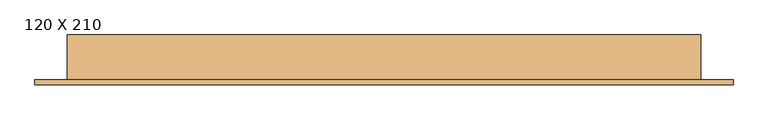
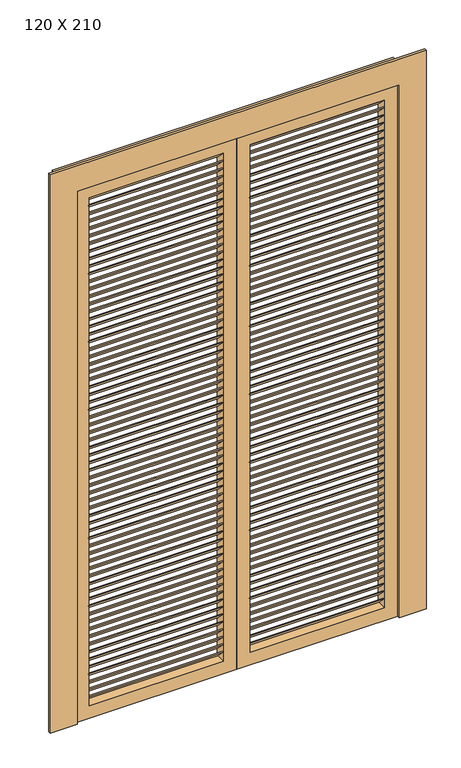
"""IFC4 building model written with IfcOpenShell, lengths in millimetres: door geometry, PORTA VENEZIANA DE ABRIR - 2 FOLHAS : 120 X 210."""

import ifcopenshell
import ifcopenshell.guid

model = None  # the IFC model being written
_history = None  # IfcOwnerHistory: only IFC2X3 demands one
_inside = {}  # id of a spatial element -> (the spatial element, [elements in it])
_under = {}  # id of a project, library or spatial element -> (it, [spatial elements below it])
_declared = {}  # id of a project -> (the project, [libraries it declares])
_typed = {}  # id of a type object -> (the type object, [elements of that type])
_made_of = {}  # id of a material, layer set ... -> (it, [elements and type objects made of it])


def new_model(schema):
    """Start an empty IFC model of exactly this schema.

    Asked for "IFC4X3", IfcOpenShell would pick the latest addendum, in which some entities
    have other attributes; the version numbers below select the first issue.
    IFC2X3 requires an IfcOwnerHistory on every rooted entity: one is made here for all.
    """
    global model, _history
    if schema == "IFC4X3":
        model = ifcopenshell.file(schema_version=(4, 3, 0, 0))
    else:
        model = ifcopenshell.file(schema=schema)
    _inside.clear()
    _under.clear()
    _declared.clear()
    _typed.clear()
    _made_of.clear()
    _history = None
    if model.schema == "IFC2X3":
        org = make("IfcOrganization", Name="unknown")
        user = make(
            "IfcPersonAndOrganization",
            ThePerson=make("IfcPerson", FamilyName="unknown"),
            TheOrganization=org,
        )
        app = make(
            "IfcApplication",
            ApplicationDeveloper=org,
            Version="unknown",
            ApplicationFullName="unknown",
            ApplicationIdentifier="unknown",
        )
        _history = make(
            "IfcOwnerHistory",
            OwningUser=user,
            OwningApplication=app,
            ChangeAction="ADDED",
            CreationDate=0,
        )
    return model


def make(cls, **values):
    """One entity of the class cls with the attributes given. An attribute that is None is left unset."""
    return model.create_entity(
        cls, **{name: value for name, value in values.items() if value is not None}
    )


def rooted(cls, **values):
    """An entity with a GlobalId (a new one), such as an element, a storey or a relation."""
    return make(cls, GlobalId=ifcopenshell.guid.new(), OwnerHistory=_history, **values)


def si_unit(unit_type, name, prefix=None):
    """IfcSIUnit, for example si_unit("LENGTHUNIT", "METRE", prefix="MILLI")."""
    return make("IfcSIUnit", UnitType=unit_type, Prefix=prefix, Name=name)


def assignment(units):
    """IfcUnitAssignment: the units of a project."""
    return None if units is None else make("IfcUnitAssignment", Units=units)


def point(xyz):
    """IfcCartesianPoint."""
    return None if xyz is None else make("IfcCartesianPoint", Coordinates=xyz)


def direction(xyz):
    """IfcDirection."""
    return None if xyz is None else make("IfcDirection", DirectionRatios=xyz)


def frame(location, z_axis=None, x_axis=None):
    """IfcAxis2Placement3D, a coordinate frame: its origin and axes. An axis left out is left unset."""
    return make(
        "IfcAxis2Placement3D",
        Location=point(location),
        Axis=direction(z_axis),
        RefDirection=direction(x_axis),
    )


def origin():
    """The frame at (0, 0, 0) with its axes left unset."""
    return frame((0.0, 0.0, 0.0))


def place(relative_to, where):
    """IfcLocalPlacement: puts the frame where relative to a parent placement (None: the world)."""
    return make(
        "IfcLocalPlacement", PlacementRelTo=relative_to, RelativePlacement=where
    )


def context(
    kind, dimensions, precision=None, world=None, true_north=None, identifier=None
):
    """IfcGeometricRepresentationContext, for example the 3D "Model" context."""
    return make(
        "IfcGeometricRepresentationContext",
        ContextIdentifier=identifier,
        ContextType=kind,
        CoordinateSpaceDimension=dimensions,
        Precision=precision,
        WorldCoordinateSystem=world,
        TrueNorth=true_north,
    )


def project(units=None, contexts=None):
    """IfcProject with its units and contexts."""
    return rooted(
        "IfcProject",
        Name="project",
        RepresentationContexts=contexts,
        UnitsInContext=assignment(units),
    )


def spatial(cls, under=None, at=None, **own):
    """A site, building, storey or space (cls), placed at a placement, below another one or the project."""
    s = rooted(cls, ObjectPlacement=at, **own)
    if under is not None:
        _under.setdefault(under.id(), (under, []))[1].append(s)
    return s


def polyline(points):
    """IfcPolyline through the points."""
    return make("IfcPolyline", Points=[point(p) for p in points])


def outline(outer, holes=None, kind="AREA"):
    """IfcArbitraryClosedProfileDef: a profile drawn as a closed curve; with holes, ...WithVoids."""
    if holes is None:
        return make("IfcArbitraryClosedProfileDef", ProfileType=kind, OuterCurve=outer)
    return make(
        "IfcArbitraryProfileDefWithVoids",
        ProfileType=kind,
        OuterCurve=outer,
        InnerCurves=holes,
    )


def extrude(swept, where, along, depth):
    """IfcExtrudedAreaSolid: the profile swept, set in the frame where, extruded along a direction by depth."""
    return make(
        "IfcExtrudedAreaSolid",
        SweptArea=swept,
        Position=where,
        ExtrudedDirection=direction(along),
        Depth=depth,
    )


def shape(context_of_items, identifier, shape_type, items):
    """IfcShapeRepresentation: the items that make up one representation, for example the "Body"."""
    return make(
        "IfcShapeRepresentation",
        ContextOfItems=context_of_items,
        RepresentationIdentifier=identifier,
        RepresentationType=shape_type,
        Items=items,
    )


def source(mapping_origin, context_of_items, identifier, shape_type, items):
    """IfcRepresentationMap: a shape defined once, which mapped items show again and again."""
    return make(
        "IfcRepresentationMap",
        MappingOrigin=mapping_origin,
        MappedRepresentation=shape(context_of_items, identifier, shape_type, items),
    )


def transform(
    local_origin,
    x_axis=None,
    y_axis=None,
    z_axis=None,
    scale=None,
    scale2=None,
    scale3=None,
    uniform=True,
):
    """IfcCartesianTransformationOperator3D, or its non-uniform kind. x_axis, y_axis, z_axis: its Axis1, 2, 3."""
    if uniform:
        return make(
            "IfcCartesianTransformationOperator3D",
            Axis1=direction(x_axis),
            Axis2=direction(y_axis),
            LocalOrigin=point(local_origin),
            Scale=scale,
            Axis3=direction(z_axis),
        )
    return make(
        "IfcCartesianTransformationOperator3DnonUniform",
        Axis1=direction(x_axis),
        Axis2=direction(y_axis),
        LocalOrigin=point(local_origin),
        Scale=scale,
        Axis3=direction(z_axis),
        Scale2=scale2,
        Scale3=scale3,
    )


def mapped(mapping_source, mapping_target):
    """IfcMappedItem: shows the shape of a source again, moved by a transform."""
    return make(
        "IfcMappedItem", MappingSource=mapping_source, MappingTarget=mapping_target
    )


def made_of(thing, what):
    """Note that an element or type object is made of a material, layer set ...; save() writes the relation."""
    if what is not None:
        _made_of.setdefault(what.id(), (what, []))[1].append(thing)
    return thing


def element(
    cls,
    number,
    at=None,
    inside=None,
    cuts=None,
    type_object=None,
    material=None,
    context=None,
    identifier="Body",
    shape_type=None,
    held_by="IfcProductDefinitionShape",
    body=None,
    shapes=None,
    **own,
):
    """One element of the class cls, such as IfcWall. Its Tag is "e" and its number.

    at: its placement. inside: the storey or other place that contains it. cuts: it is an
    opening in that element (IfcRelVoidsElement). A single representation is given by context,
    identifier, shape_type and body (its items); several are given by shapes. held_by: the class
    of the entity that holds the representations. save() writes the other relations.
    """
    e = rooted(cls, Tag="e%d" % number, ObjectPlacement=at, **own)
    if body is not None:
        shapes = [shape(context, identifier, shape_type, body)]
    if shapes is not None:
        e.Representation = make(held_by, Representations=shapes)
    if inside is not None:
        _inside.setdefault(inside.id(), (inside, []))[1].append(e)
    if cuts is not None:
        rooted(
            "IfcRelVoidsElement", RelatingBuildingElement=cuts, RelatedOpeningElement=e
        )
    if type_object is not None:
        _typed.setdefault(type_object.id(), (type_object, []))[1].append(e)
    return made_of(e, material)


def aggregate(whole, parts):
    """IfcRelAggregates: a whole, such as a stair, and the parts it consists of."""
    return rooted("IfcRelAggregates", RelatingObject=whole, RelatedObjects=parts)


def save(model, path):
    """Write the relations noted so far, then the file.

    IfcRelAggregates (storeys below a building ...), IfcRelContainedInSpatialStructure (elements
    in a storey), IfcRelDefinesByType, IfcRelAssociatesMaterial and IfcRelDeclares: one each for
    every whole, place, type object, material and project.
    """
    for whole, parts in _under.values():
        aggregate(whole, parts)
    for where, things in _inside.values():
        rooted(
            "IfcRelContainedInSpatialStructure",
            RelatedElements=things,
            RelatingStructure=where,
        )
    for kind, things in _typed.values():
        rooted("IfcRelDefinesByType", RelatedObjects=things, RelatingType=kind)
    for what, things in _made_of.values():
        rooted("IfcRelAssociatesMaterial", RelatedObjects=things, RelatingMaterial=what)
    for by, libraries in _declared.values():
        rooted("IfcRelDeclares", RelatingContext=by, RelatedDefinitions=libraries)
    model.write(path)


def door_120_x_210_11fb88a3(model_context):
    return source(origin(), model_context, "Body", "SweptSolid", [
        extrude(outline(polyline([(-40.0, 1985.2272727), (-75.0, 2020.2272727), (-70.0, 2020.2272727), (-35.0, 1985.2272727), (-40.0, 1985.2272727)])), frame((130.0, 0.0, 0.0), z_axis=(1.0, 0.0, 0.0), x_axis=(0.0, 1.0, 0.0)), (0.0, 0.0, 1.0), 500.0),
        extrude(outline(polyline([(-40.0, 1955.4545455), (-75.0, 1990.4545455), (-70.0, 1990.4545455), (-35.0, 1955.4545455), (-40.0, 1955.4545455)])), frame((130.0, 0.0, 0.0), z_axis=(1.0, 0.0, 0.0), x_axis=(0.0, 1.0, 0.0)), (0.0, 0.0, 1.0), 500.0),
        extrude(outline(polyline([(-40.0, 1925.6818182), (-75.0, 1960.6818182), (-70.0, 1960.6818182), (-35.0, 1925.6818182), (-40.0, 1925.6818182)])), frame((130.0, 0.0, 0.0), z_axis=(1.0, 0.0, 0.0), x_axis=(0.0, 1.0, 0.0)), (0.0, 0.0, 1.0), 500.0),
        extrude(outline(polyline([(-40.0, 1895.9090909), (-75.0, 1930.9090909), (-70.0, 1930.9090909), (-35.0, 1895.9090909), (-40.0, 1895.9090909)])), frame((130.0, 0.0, 0.0), z_axis=(1.0, 0.0, 0.0), x_axis=(0.0, 1.0, 0.0)), (0.0, 0.0, 1.0), 500.0),
        extrude(outline(polyline([(-40.0, 1866.1363636), (-75.0, 1901.1363636), (-70.0, 1901.1363636), (-35.0, 1866.1363636), (-40.0, 1866.1363636)])), frame((130.0, 0.0, 0.0), z_axis=(1.0, 0.0, 0.0), x_axis=(0.0, 1.0, 0.0)), (0.0, 0.0, 1.0), 500.0),
        extrude(outline(polyline([(-40.0, 1836.3636364), (-75.0, 1871.3636364), (-70.0, 1871.3636364), (-35.0, 1836.3636364), (-40.0, 1836.3636364)])), frame((130.0, 0.0, 0.0), z_axis=(1.0, 0.0, 0.0), x_axis=(0.0, 1.0, 0.0)), (0.0, 0.0, 1.0), 500.0),
        extrude(outline(polyline([(-40.0, 1806.5909091), (-75.0, 1841.5909091), (-70.0, 1841.5909091), (-35.0, 1806.5909091), (-40.0, 1806.5909091)])), frame((130.0, 0.0, 0.0), z_axis=(1.0, 0.0, 0.0), x_axis=(0.0, 1.0, 0.0)), (0.0, 0.0, 1.0), 500.0),
        extrude(outline(polyline([(-40.0, 1776.8181818), (-75.0, 1811.8181818), (-70.0, 1811.8181818), (-35.0, 1776.8181818), (-40.0, 1776.8181818)])), frame((130.0, 0.0, 0.0), z_axis=(1.0, 0.0, 0.0), x_axis=(0.0, 1.0, 0.0)), (0.0, 0.0, 1.0), 500.0),
        extrude(outline(polyline([(-40.0, 1747.0454545), (-75.0, 1782.0454545), (-70.0, 1782.0454545), (-35.0, 1747.0454545), (-40.0, 1747.0454545)])), frame((130.0, 0.0, 0.0), z_axis=(1.0, 0.0, 0.0), x_axis=(0.0, 1.0, 0.0)), (0.0, 0.0, 1.0), 500.0),
        extrude(outline(polyline([(-40.0, 1717.2727273), (-75.0, 1752.2727273), (-70.0, 1752.2727273), (-35.0, 1717.2727273), (-40.0, 1717.2727273)])), frame((130.0, 0.0, 0.0), z_axis=(1.0, 0.0, 0.0), x_axis=(0.0, 1.0, 0.0)), (0.0, 0.0, 1.0), 500.0),
        extrude(outline(polyline([(-40.0, 1687.5), (-75.0, 1722.5), (-70.0, 1722.5), (-35.0, 1687.5), (-40.0, 1687.5)])), frame((130.0, 0.0, 0.0), z_axis=(1.0, 0.0, 0.0), x_axis=(0.0, 1.0, 0.0)), (0.0, 0.0, 1.0), 500.0),
        extrude(outline(polyline([(-40.0, 1657.7272727), (-75.0, 1692.7272727), (-70.0, 1692.7272727), (-35.0, 1657.7272727), (-40.0, 1657.7272727)])), frame((130.0, 0.0, 0.0), z_axis=(1.0, 0.0, 0.0), x_axis=(0.0, 1.0, 0.0)), (0.0, 0.0, 1.0), 500.0),
        extrude(outline(polyline([(-40.0, 1627.9545455), (-75.0, 1662.9545455), (-70.0, 1662.9545455), (-35.0, 1627.9545455), (-40.0, 1627.9545455)])), frame((130.0, 0.0, 0.0), z_axis=(1.0, 0.0, 0.0), x_axis=(0.0, 1.0, 0.0)), (0.0, 0.0, 1.0), 500.0),
        extrude(outline(polyline([(-40.0, 1598.1818182), (-75.0, 1633.1818182), (-70.0, 1633.1818182), (-35.0, 1598.1818182), (-40.0, 1598.1818182)])), frame((130.0, 0.0, 0.0), z_axis=(1.0, 0.0, 0.0), x_axis=(0.0, 1.0, 0.0)), (0.0, 0.0, 1.0), 500.0),
        extrude(outline(polyline([(-40.0, 1568.4090909), (-75.0, 1603.4090909), (-70.0, 1603.4090909), (-35.0, 1568.4090909), (-40.0, 1568.4090909)])), frame((130.0, 0.0, 0.0), z_axis=(1.0, 0.0, 0.0), x_axis=(0.0, 1.0, 0.0)), (0.0, 0.0, 1.0), 500.0),
        extrude(outline(polyline([(-40.0, 1538.6363636), (-75.0, 1573.6363636), (-70.0, 1573.6363636), (-35.0, 1538.6363636), (-40.0, 1538.6363636)])), frame((130.0, 0.0, 0.0), z_axis=(1.0, 0.0, 0.0), x_axis=(0.0, 1.0, 0.0)), (0.0, 0.0, 1.0), 500.0),
        extrude(outline(polyline([(-40.0, 1508.8636364), (-75.0, 1543.8636364), (-70.0, 1543.8636364), (-35.0, 1508.8636364), (-40.0, 1508.8636364)])), frame((130.0, 0.0, 0.0), z_axis=(1.0, 0.0, 0.0), x_axis=(0.0, 1.0, 0.0)), (0.0, 0.0, 1.0), 500.0),
        extrude(outline(polyline([(-40.0, 1479.0909091), (-75.0, 1514.0909091), (-70.0, 1514.0909091), (-35.0, 1479.0909091), (-40.0, 1479.0909091)])), frame((130.0, 0.0, 0.0), z_axis=(1.0, 0.0, 0.0), x_axis=(0.0, 1.0, 0.0)), (0.0, 0.0, 1.0), 500.0),
        extrude(outline(polyline([(-40.0, 1449.3181818), (-75.0, 1484.3181818), (-70.0, 1484.3181818), (-35.0, 1449.3181818), (-40.0, 1449.3181818)])), frame((130.0, 0.0, 0.0), z_axis=(1.0, 0.0, 0.0), x_axis=(0.0, 1.0, 0.0)), (0.0, 0.0, 1.0), 500.0),
        extrude(outline(polyline([(-40.0, 1419.5454545), (-75.0, 1454.5454545), (-70.0, 1454.5454545), (-35.0, 1419.5454545), (-40.0, 1419.5454545)])), frame((130.0, 0.0, 0.0), z_axis=(1.0, 0.0, 0.0), x_axis=(0.0, 1.0, 0.0)), (0.0, 0.0, 1.0), 500.0),
        extrude(outline(polyline([(-40.0, 1389.7727273), (-75.0, 1424.7727273), (-70.0, 1424.7727273), (-35.0, 1389.7727273), (-40.0, 1389.7727273)])), frame((130.0, 0.0, 0.0), z_axis=(1.0, 0.0, 0.0), x_axis=(0.0, 1.0, 0.0)), (0.0, 0.0, 1.0), 500.0),
        extrude(outline(polyline([(-40.0, 1360.0), (-75.0, 1395.0), (-70.0, 1395.0), (-35.0, 1360.0), (-40.0, 1360.0)])), frame((130.0, 0.0, 0.0), z_axis=(1.0, 0.0, 0.0), x_axis=(0.0, 1.0, 0.0)), (0.0, 0.0, 1.0), 500.0),
        extrude(outline(polyline([(-40.0, 1330.2272727), (-75.0, 1365.2272727), (-70.0, 1365.2272727), (-35.0, 1330.2272727), (-40.0, 1330.2272727)])), frame((130.0, 0.0, 0.0), z_axis=(1.0, 0.0, 0.0), x_axis=(0.0, 1.0, 0.0)), (0.0, 0.0, 1.0), 500.0),
        extrude(outline(polyline([(-40.0, 1300.4545455), (-75.0, 1335.4545455), (-70.0, 1335.4545455), (-35.0, 1300.4545455), (-40.0, 1300.4545455)])), frame((130.0, 0.0, 0.0), z_axis=(1.0, 0.0, 0.0), x_axis=(0.0, 1.0, 0.0)), (0.0, 0.0, 1.0), 500.0),
        extrude(outline(polyline([(-40.0, 1270.6818182), (-75.0, 1305.6818182), (-70.0, 1305.6818182), (-35.0, 1270.6818182), (-40.0, 1270.6818182)])), frame((130.0, 0.0, 0.0), z_axis=(1.0, 0.0, 0.0), x_axis=(0.0, 1.0, 0.0)), (0.0, 0.0, 1.0), 500.0),
        extrude(outline(polyline([(-40.0, 1240.9090909), (-75.0, 1275.9090909), (-70.0, 1275.9090909), (-35.0, 1240.9090909), (-40.0, 1240.9090909)])), frame((130.0, 0.0, 0.0), z_axis=(1.0, 0.0, 0.0), x_axis=(0.0, 1.0, 0.0)), (0.0, 0.0, 1.0), 500.0),
        extrude(outline(polyline([(-40.0, 1211.1363636), (-75.0, 1246.1363636), (-70.0, 1246.1363636), (-35.0, 1211.1363636), (-40.0, 1211.1363636)])), frame((130.0, 0.0, 0.0), z_axis=(1.0, 0.0, 0.0), x_axis=(0.0, 1.0, 0.0)), (0.0, 0.0, 1.0), 500.0),
        extrude(outline(polyline([(-40.0, 1181.3636364), (-75.0, 1216.3636364), (-70.0, 1216.3636364), (-35.0, 1181.3636364), (-40.0, 1181.3636364)])), frame((130.0, 0.0, 0.0), z_axis=(1.0, 0.0, 0.0), x_axis=(0.0, 1.0, 0.0)), (0.0, 0.0, 1.0), 500.0),
        extrude(outline(polyline([(-40.0, 1151.5909091), (-75.0, 1186.5909091), (-70.0, 1186.5909091), (-35.0, 1151.5909091), (-40.0, 1151.5909091)])), frame((130.0, 0.0, 0.0), z_axis=(1.0, 0.0, 0.0), x_axis=(0.0, 1.0, 0.0)), (0.0, 0.0, 1.0), 500.0),
        extrude(outline(polyline([(-40.0, 1121.8181818), (-75.0, 1156.8181818), (-70.0, 1156.8181818), (-35.0, 1121.8181818), (-40.0, 1121.8181818)])), frame((130.0, 0.0, 0.0), z_axis=(1.0, 0.0, 0.0), x_axis=(0.0, 1.0, 0.0)), (0.0, 0.0, 1.0), 500.0),
        extrude(outline(polyline([(-40.0, 1092.0454545), (-75.0, 1127.0454545), (-70.0, 1127.0454545), (-35.0, 1092.0454545), (-40.0, 1092.0454545)])), frame((130.0, 0.0, 0.0), z_axis=(1.0, 0.0, 0.0), x_axis=(0.0, 1.0, 0.0)), (0.0, 0.0, 1.0), 500.0),
        extrude(outline(polyline([(-40.0, 1062.2727273), (-75.0, 1097.2727273), (-70.0, 1097.2727273), (-35.0, 1062.2727273), (-40.0, 1062.2727273)])), frame((130.0, 0.0, 0.0), z_axis=(1.0, 0.0, 0.0), x_axis=(0.0, 1.0, 0.0)), (0.0, 0.0, 1.0), 500.0),
        extrude(outline(polyline([(-40.0, 1032.5), (-75.0, 1067.5), (-70.0, 1067.5), (-35.0, 1032.5), (-40.0, 1032.5)])), frame((130.0, 0.0, 0.0), z_axis=(1.0, 0.0, 0.0), x_axis=(0.0, 1.0, 0.0)), (0.0, 0.0, 1.0), 500.0),
        extrude(outline(polyline([(-40.0, 1002.7272727), (-75.0, 1037.7272727), (-70.0, 1037.7272727), (-35.0, 1002.7272727), (-40.0, 1002.7272727)])), frame((130.0, 0.0, 0.0), z_axis=(1.0, 0.0, 0.0), x_axis=(0.0, 1.0, 0.0)), (0.0, 0.0, 1.0), 500.0),
        extrude(outline(polyline([(-40.0, 972.9545455), (-75.0, 1007.9545455), (-70.0, 1007.9545455), (-35.0, 972.9545455), (-40.0, 972.9545455)])), frame((130.0, 0.0, 0.0), z_axis=(1.0, 0.0, 0.0), x_axis=(0.0, 1.0, 0.0)), (0.0, 0.0, 1.0), 500.0),
        extrude(outline(polyline([(-40.0, 943.1818182), (-75.0, 978.1818182), (-70.0, 978.1818182), (-35.0, 943.1818182), (-40.0, 943.1818182)])), frame((130.0, 0.0, 0.0), z_axis=(1.0, 0.0, 0.0), x_axis=(0.0, 1.0, 0.0)), (0.0, 0.0, 1.0), 500.0),
        extrude(outline(polyline([(-40.0, 913.4090909), (-75.0, 948.4090909), (-70.0, 948.4090909), (-35.0, 913.4090909), (-40.0, 913.4090909)])), frame((130.0, 0.0, 0.0), z_axis=(1.0, 0.0, 0.0), x_axis=(0.0, 1.0, 0.0)), (0.0, 0.0, 1.0), 500.0),
        extrude(outline(polyline([(-40.0, 883.6363636), (-75.0, 918.6363636), (-70.0, 918.6363636), (-35.0, 883.6363636), (-40.0, 883.6363636)])), frame((130.0, 0.0, 0.0), z_axis=(1.0, 0.0, 0.0), x_axis=(0.0, 1.0, 0.0)), (0.0, 0.0, 1.0), 500.0),
        extrude(outline(polyline([(-40.0, 853.8636364), (-75.0, 888.8636364), (-70.0, 888.8636364), (-35.0, 853.8636364), (-40.0, 853.8636364)])), frame((130.0, 0.0, 0.0), z_axis=(1.0, 0.0, 0.0), x_axis=(0.0, 1.0, 0.0)), (0.0, 0.0, 1.0), 500.0),
        extrude(outline(polyline([(-40.0, 824.0909091), (-75.0, 859.0909091), (-70.0, 859.0909091), (-35.0, 824.0909091), (-40.0, 824.0909091)])), frame((130.0, 0.0, 0.0), z_axis=(1.0, 0.0, 0.0), x_axis=(0.0, 1.0, 0.0)), (0.0, 0.0, 1.0), 500.0),
        extrude(outline(polyline([(-40.0, 794.3181818), (-75.0, 829.3181818), (-70.0, 829.3181818), (-35.0, 794.3181818), (-40.0, 794.3181818)])), frame((130.0, 0.0, 0.0), z_axis=(1.0, 0.0, 0.0), x_axis=(0.0, 1.0, 0.0)), (0.0, 0.0, 1.0), 500.0),
        extrude(outline(polyline([(-40.0, 764.5454545), (-75.0, 799.5454545), (-70.0, 799.5454545), (-35.0, 764.5454545), (-40.0, 764.5454545)])), frame((130.0, 0.0, 0.0), z_axis=(1.0, 0.0, 0.0), x_axis=(0.0, 1.0, 0.0)), (0.0, 0.0, 1.0), 500.0),
        extrude(outline(polyline([(-40.0, 734.7727273), (-75.0, 769.7727273), (-70.0, 769.7727273), (-35.0, 734.7727273), (-40.0, 734.7727273)])), frame((130.0, 0.0, 0.0), z_axis=(1.0, 0.0, 0.0), x_axis=(0.0, 1.0, 0.0)), (0.0, 0.0, 1.0), 500.0),
        extrude(outline(polyline([(-40.0, 705.0), (-75.0, 740.0), (-70.0, 740.0), (-35.0, 705.0), (-40.0, 705.0)])), frame((130.0, 0.0, 0.0), z_axis=(1.0, 0.0, 0.0), x_axis=(0.0, 1.0, 0.0)), (0.0, 0.0, 1.0), 500.0),
        extrude(outline(polyline([(-40.0, 675.2272727), (-75.0, 710.2272727), (-70.0, 710.2272727), (-35.0, 675.2272727), (-40.0, 675.2272727)])), frame((130.0, 0.0, 0.0), z_axis=(1.0, 0.0, 0.0), x_axis=(0.0, 1.0, 0.0)), (0.0, 0.0, 1.0), 500.0),
        extrude(outline(polyline([(-40.0, 645.4545455), (-75.0, 680.4545455), (-70.0, 680.4545455), (-35.0, 645.4545455), (-40.0, 645.4545455)])), frame((130.0, 0.0, 0.0), z_axis=(1.0, 0.0, 0.0), x_axis=(0.0, 1.0, 0.0)), (0.0, 0.0, 1.0), 500.0),
        extrude(outline(polyline([(-40.0, 615.6818182), (-75.0, 650.6818182), (-70.0, 650.6818182), (-35.0, 615.6818182), (-40.0, 615.6818182)])), frame((130.0, 0.0, 0.0), z_axis=(1.0, 0.0, 0.0), x_axis=(0.0, 1.0, 0.0)), (0.0, 0.0, 1.0), 500.0),
        extrude(outline(polyline([(-40.0, 585.9090909), (-75.0, 620.9090909), (-70.0, 620.9090909), (-35.0, 585.9090909), (-40.0, 585.9090909)])), frame((130.0, 0.0, 0.0), z_axis=(1.0, 0.0, 0.0), x_axis=(0.0, 1.0, 0.0)), (0.0, 0.0, 1.0), 500.0),
        extrude(outline(polyline([(-40.0, 556.1363636), (-75.0, 591.1363636), (-70.0, 591.1363636), (-35.0, 556.1363636), (-40.0, 556.1363636)])), frame((130.0, 0.0, 0.0), z_axis=(1.0, 0.0, 0.0), x_axis=(0.0, 1.0, 0.0)), (0.0, 0.0, 1.0), 500.0),
        extrude(outline(polyline([(-40.0, 526.3636364), (-75.0, 561.3636364), (-70.0, 561.3636364), (-35.0, 526.3636364), (-40.0, 526.3636364)])), frame((130.0, 0.0, 0.0), z_axis=(1.0, 0.0, 0.0), x_axis=(0.0, 1.0, 0.0)), (0.0, 0.0, 1.0), 500.0),
        extrude(outline(polyline([(-40.0, 496.5909091), (-75.0, 531.5909091), (-70.0, 531.5909091), (-35.0, 496.5909091), (-40.0, 496.5909091)])), frame((130.0, 0.0, 0.0), z_axis=(1.0, 0.0, 0.0), x_axis=(0.0, 1.0, 0.0)), (0.0, 0.0, 1.0), 500.0),
        extrude(outline(polyline([(-40.0, 466.8181818), (-75.0, 501.8181818), (-70.0, 501.8181818), (-35.0, 466.8181818), (-40.0, 466.8181818)])), frame((130.0, 0.0, 0.0), z_axis=(1.0, 0.0, 0.0), x_axis=(0.0, 1.0, 0.0)), (0.0, 0.0, 1.0), 500.0),
        extrude(outline(polyline([(-40.0, 437.0454545), (-75.0, 472.0454545), (-70.0, 472.0454545), (-35.0, 437.0454545), (-40.0, 437.0454545)])), frame((130.0, 0.0, 0.0), z_axis=(1.0, 0.0, 0.0), x_axis=(0.0, 1.0, 0.0)), (0.0, 0.0, 1.0), 500.0),
        extrude(outline(polyline([(-40.0, 407.2727273), (-75.0, 442.2727273), (-70.0, 442.2727273), (-35.0, 407.2727273), (-40.0, 407.2727273)])), frame((130.0, 0.0, 0.0), z_axis=(1.0, 0.0, 0.0), x_axis=(0.0, 1.0, 0.0)), (0.0, 0.0, 1.0), 500.0),
        extrude(outline(polyline([(-40.0, 377.5), (-75.0, 412.5), (-70.0, 412.5), (-35.0, 377.5), (-40.0, 377.5)])), frame((130.0, 0.0, 0.0), z_axis=(1.0, 0.0, 0.0), x_axis=(0.0, 1.0, 0.0)), (0.0, 0.0, 1.0), 500.0),
        extrude(outline(polyline([(-40.0, 347.7272727), (-75.0, 382.7272727), (-70.0, 382.7272727), (-35.0, 347.7272727), (-40.0, 347.7272727)])), frame((130.0, 0.0, 0.0), z_axis=(1.0, 0.0, 0.0), x_axis=(0.0, 1.0, 0.0)), (0.0, 0.0, 1.0), 500.0),
        extrude(outline(polyline([(-40.0, 317.9545455), (-75.0, 352.9545455), (-70.0, 352.9545455), (-35.0, 317.9545455), (-40.0, 317.9545455)])), frame((130.0, 0.0, 0.0), z_axis=(1.0, 0.0, 0.0), x_axis=(0.0, 1.0, 0.0)), (0.0, 0.0, 1.0), 500.0),
        extrude(outline(polyline([(-40.0, 288.1818182), (-75.0, 323.1818182), (-70.0, 323.1818182), (-35.0, 288.1818182), (-40.0, 288.1818182)])), frame((130.0, 0.0, 0.0), z_axis=(1.0, 0.0, 0.0), x_axis=(0.0, 1.0, 0.0)), (0.0, 0.0, 1.0), 500.0),
        extrude(outline(polyline([(-40.0, 258.4090909), (-75.0, 293.4090909), (-70.0, 293.4090909), (-35.0, 258.4090909), (-40.0, 258.4090909)])), frame((130.0, 0.0, 0.0), z_axis=(1.0, 0.0, 0.0), x_axis=(0.0, 1.0, 0.0)), (0.0, 0.0, 1.0), 500.0),
        extrude(outline(polyline([(-40.0, 228.6363636), (-75.0, 263.6363636), (-70.0, 263.6363636), (-35.0, 228.6363636), (-40.0, 228.6363636)])), frame((130.0, 0.0, 0.0), z_axis=(1.0, 0.0, 0.0), x_axis=(0.0, 1.0, 0.0)), (0.0, 0.0, 1.0), 500.0),
        extrude(outline(polyline([(-40.0, 198.8636364), (-75.0, 233.8636364), (-70.0, 233.8636364), (-35.0, 198.8636364), (-40.0, 198.8636364)])), frame((130.0, 0.0, 0.0), z_axis=(1.0, 0.0, 0.0), x_axis=(0.0, 1.0, 0.0)), (0.0, 0.0, 1.0), 500.0),
        extrude(outline(polyline([(-40.0, 169.0909091), (-75.0, 204.0909091), (-70.0, 204.0909091), (-35.0, 169.0909091), (-40.0, 169.0909091)])), frame((130.0, 0.0, 0.0), z_axis=(1.0, 0.0, 0.0), x_axis=(0.0, 1.0, 0.0)), (0.0, 0.0, 1.0), 500.0),
        extrude(outline(polyline([(-40.0, 139.3181818), (-75.0, 174.3181818), (-70.0, 174.3181818), (-35.0, 139.3181818), (-40.0, 139.3181818)])), frame((130.0, 0.0, 0.0), z_axis=(1.0, 0.0, 0.0), x_axis=(0.0, 1.0, 0.0)), (0.0, 0.0, 1.0), 500.0),
        extrude(outline(polyline([(-40.0, 109.5454545), (-75.0, 144.5454545), (-70.0, 144.5454545), (-35.0, 109.5454545), (-40.0, 109.5454545)])), frame((130.0, 0.0, 0.0), z_axis=(1.0, 0.0, 0.0), x_axis=(0.0, 1.0, 0.0)), (0.0, 0.0, 1.0), 500.0),
        extrude(outline(polyline([(-40.0, 79.7727273), (-75.0, 114.7727273), (-70.0, 114.7727273), (-35.0, 79.7727273), (-40.0, 79.7727273)])), frame((130.0, 0.0, 0.0), z_axis=(1.0, 0.0, 0.0), x_axis=(0.0, 1.0, 0.0)), (0.0, 0.0, 1.0), 500.0),
        extrude(outline(polyline([(-40.0, 2015.0), (-75.0, 2050.0), (-70.0, 2050.0), (-35.0, 2015.0), (-40.0, 2015.0)])), frame((130.0, 0.0, 0.0), z_axis=(1.0, 0.0, 0.0), x_axis=(0.0, 1.0, 0.0)), (0.0, 0.0, 1.0), 500.0),
        extrude(outline(polyline([(-40.0, 50.0), (-75.0, 85.0), (-70.0, 85.0), (-35.0, 50.0), (-40.0, 50.0)])), frame((130.0, 0.0, 0.0), z_axis=(1.0, 0.0, 0.0), x_axis=(0.0, 1.0, 0.0)), (0.0, 0.0, 1.0), 500.0),
        extrude(outline(polyline([(2100.0, 80.0), (0.0, 80.0), (0.0, 680.0), (2100.0, 680.0), (2100.0, 80.0)]), holes=[polyline([(2050.0, 130.0), (2050.0, 630.0), (50.0, 630.0), (50.0, 130.0), (2050.0, 130.0)])]), frame((0.0, -75.0, 0.0), z_axis=(0.0, 1.0, 0.0), x_axis=(0.0, 0.0, 1.0)), (0.0, 0.0, 1.0), 40.0),
        extrude(outline(polyline([(-40.0, 1985.2272727), (-75.0, 2020.2272727), (-70.0, 2020.2272727), (-35.0, 1985.2272727), (-40.0, 1985.2272727)])), frame((-470.0, 0.0, 0.0), z_axis=(1.0, 0.0, 0.0), x_axis=(0.0, 1.0, 0.0)), (0.0, 0.0, 1.0), 500.0),
        extrude(outline(polyline([(-40.0, 1955.4545455), (-75.0, 1990.4545455), (-70.0, 1990.4545455), (-35.0, 1955.4545455), (-40.0, 1955.4545455)])), frame((-470.0, 0.0, 0.0), z_axis=(1.0, 0.0, 0.0), x_axis=(0.0, 1.0, 0.0)), (0.0, 0.0, 1.0), 500.0),
        extrude(outline(polyline([(-40.0, 1925.6818182), (-75.0, 1960.6818182), (-70.0, 1960.6818182), (-35.0, 1925.6818182), (-40.0, 1925.6818182)])), frame((-470.0, 0.0, 0.0), z_axis=(1.0, 0.0, 0.0), x_axis=(0.0, 1.0, 0.0)), (0.0, 0.0, 1.0), 500.0),
        extrude(outline(polyline([(-40.0, 1895.9090909), (-75.0, 1930.9090909), (-70.0, 1930.9090909), (-35.0, 1895.9090909), (-40.0, 1895.9090909)])), frame((-470.0, 0.0, 0.0), z_axis=(1.0, 0.0, 0.0), x_axis=(0.0, 1.0, 0.0)), (0.0, 0.0, 1.0), 500.0),
        extrude(outline(polyline([(-40.0, 1866.1363636), (-75.0, 1901.1363636), (-70.0, 1901.1363636), (-35.0, 1866.1363636), (-40.0, 1866.1363636)])), frame((-470.0, 0.0, 0.0), z_axis=(1.0, 0.0, 0.0), x_axis=(0.0, 1.0, 0.0)), (0.0, 0.0, 1.0), 500.0),
        extrude(outline(polyline([(-40.0, 1836.3636364), (-75.0, 1871.3636364), (-70.0, 1871.3636364), (-35.0, 1836.3636364), (-40.0, 1836.3636364)])), frame((-470.0, 0.0, 0.0), z_axis=(1.0, 0.0, 0.0), x_axis=(0.0, 1.0, 0.0)), (0.0, 0.0, 1.0), 500.0),
        extrude(outline(polyline([(-40.0, 1806.5909091), (-75.0, 1841.5909091), (-70.0, 1841.5909091), (-35.0, 1806.5909091), (-40.0, 1806.5909091)])), frame((-470.0, 0.0, 0.0), z_axis=(1.0, 0.0, 0.0), x_axis=(0.0, 1.0, 0.0)), (0.0, 0.0, 1.0), 500.0),
        extrude(outline(polyline([(-40.0, 1776.8181818), (-75.0, 1811.8181818), (-70.0, 1811.8181818), (-35.0, 1776.8181818), (-40.0, 1776.8181818)])), frame((-470.0, 0.0, 0.0), z_axis=(1.0, 0.0, 0.0), x_axis=(0.0, 1.0, 0.0)), (0.0, 0.0, 1.0), 500.0),
        extrude(outline(polyline([(-40.0, 1747.0454545), (-75.0, 1782.0454545), (-70.0, 1782.0454545), (-35.0, 1747.0454545), (-40.0, 1747.0454545)])), frame((-470.0, 0.0, 0.0), z_axis=(1.0, 0.0, 0.0), x_axis=(0.0, 1.0, 0.0)), (0.0, 0.0, 1.0), 500.0),
        extrude(outline(polyline([(-40.0, 1717.2727273), (-75.0, 1752.2727273), (-70.0, 1752.2727273), (-35.0, 1717.2727273), (-40.0, 1717.2727273)])), frame((-470.0, 0.0, 0.0), z_axis=(1.0, 0.0, 0.0), x_axis=(0.0, 1.0, 0.0)), (0.0, 0.0, 1.0), 500.0),
        extrude(outline(polyline([(-40.0, 1687.5), (-75.0, 1722.5), (-70.0, 1722.5), (-35.0, 1687.5), (-40.0, 1687.5)])), frame((-470.0, 0.0, 0.0), z_axis=(1.0, 0.0, 0.0), x_axis=(0.0, 1.0, 0.0)), (0.0, 0.0, 1.0), 500.0),
        extrude(outline(polyline([(-40.0, 1657.7272727), (-75.0, 1692.7272727), (-70.0, 1692.7272727), (-35.0, 1657.7272727), (-40.0, 1657.7272727)])), frame((-470.0, 0.0, 0.0), z_axis=(1.0, 0.0, 0.0), x_axis=(0.0, 1.0, 0.0)), (0.0, 0.0, 1.0), 500.0),
        extrude(outline(polyline([(-40.0, 1627.9545455), (-75.0, 1662.9545455), (-70.0, 1662.9545455), (-35.0, 1627.9545455), (-40.0, 1627.9545455)])), frame((-470.0, 0.0, 0.0), z_axis=(1.0, 0.0, 0.0), x_axis=(0.0, 1.0, 0.0)), (0.0, 0.0, 1.0), 500.0),
        extrude(outline(polyline([(-40.0, 1598.1818182), (-75.0, 1633.1818182), (-70.0, 1633.1818182), (-35.0, 1598.1818182), (-40.0, 1598.1818182)])), frame((-470.0, 0.0, 0.0), z_axis=(1.0, 0.0, 0.0), x_axis=(0.0, 1.0, 0.0)), (0.0, 0.0, 1.0), 500.0),
        extrude(outline(polyline([(-40.0, 1568.4090909), (-75.0, 1603.4090909), (-70.0, 1603.4090909), (-35.0, 1568.4090909), (-40.0, 1568.4090909)])), frame((-470.0, 0.0, 0.0), z_axis=(1.0, 0.0, 0.0), x_axis=(0.0, 1.0, 0.0)), (0.0, 0.0, 1.0), 500.0),
        extrude(outline(polyline([(-40.0, 1538.6363636), (-75.0, 1573.6363636), (-70.0, 1573.6363636), (-35.0, 1538.6363636), (-40.0, 1538.6363636)])), frame((-470.0, 0.0, 0.0), z_axis=(1.0, 0.0, 0.0), x_axis=(0.0, 1.0, 0.0)), (0.0, 0.0, 1.0), 500.0),
        extrude(outline(polyline([(-40.0, 1508.8636364), (-75.0, 1543.8636364), (-70.0, 1543.8636364), (-35.0, 1508.8636364), (-40.0, 1508.8636364)])), frame((-470.0, 0.0, 0.0), z_axis=(1.0, 0.0, 0.0), x_axis=(0.0, 1.0, 0.0)), (0.0, 0.0, 1.0), 500.0),
        extrude(outline(polyline([(-40.0, 1479.0909091), (-75.0, 1514.0909091), (-70.0, 1514.0909091), (-35.0, 1479.0909091), (-40.0, 1479.0909091)])), frame((-470.0, 0.0, 0.0), z_axis=(1.0, 0.0, 0.0), x_axis=(0.0, 1.0, 0.0)), (0.0, 0.0, 1.0), 500.0),
        extrude(outline(polyline([(-40.0, 1449.3181818), (-75.0, 1484.3181818), (-70.0, 1484.3181818), (-35.0, 1449.3181818), (-40.0, 1449.3181818)])), frame((-470.0, 0.0, 0.0), z_axis=(1.0, 0.0, 0.0), x_axis=(0.0, 1.0, 0.0)), (0.0, 0.0, 1.0), 500.0),
        extrude(outline(polyline([(-40.0, 1419.5454545), (-75.0, 1454.5454545), (-70.0, 1454.5454545), (-35.0, 1419.5454545), (-40.0, 1419.5454545)])), frame((-470.0, 0.0, 0.0), z_axis=(1.0, 0.0, 0.0), x_axis=(0.0, 1.0, 0.0)), (0.0, 0.0, 1.0), 500.0),
        extrude(outline(polyline([(-40.0, 1389.7727273), (-75.0, 1424.7727273), (-70.0, 1424.7727273), (-35.0, 1389.7727273), (-40.0, 1389.7727273)])), frame((-470.0, 0.0, 0.0), z_axis=(1.0, 0.0, 0.0), x_axis=(0.0, 1.0, 0.0)), (0.0, 0.0, 1.0), 500.0),
        extrude(outline(polyline([(-40.0, 1360.0), (-75.0, 1395.0), (-70.0, 1395.0), (-35.0, 1360.0), (-40.0, 1360.0)])), frame((-470.0, 0.0, 0.0), z_axis=(1.0, 0.0, 0.0), x_axis=(0.0, 1.0, 0.0)), (0.0, 0.0, 1.0), 500.0),
        extrude(outline(polyline([(-40.0, 1330.2272727), (-75.0, 1365.2272727), (-70.0, 1365.2272727), (-35.0, 1330.2272727), (-40.0, 1330.2272727)])), frame((-470.0, 0.0, 0.0), z_axis=(1.0, 0.0, 0.0), x_axis=(0.0, 1.0, 0.0)), (0.0, 0.0, 1.0), 500.0),
        extrude(outline(polyline([(-40.0, 1300.4545455), (-75.0, 1335.4545455), (-70.0, 1335.4545455), (-35.0, 1300.4545455), (-40.0, 1300.4545455)])), frame((-470.0, 0.0, 0.0), z_axis=(1.0, 0.0, 0.0), x_axis=(0.0, 1.0, 0.0)), (0.0, 0.0, 1.0), 500.0),
        extrude(outline(polyline([(-40.0, 1270.6818182), (-75.0, 1305.6818182), (-70.0, 1305.6818182), (-35.0, 1270.6818182), (-40.0, 1270.6818182)])), frame((-470.0, 0.0, 0.0), z_axis=(1.0, 0.0, 0.0), x_axis=(0.0, 1.0, 0.0)), (0.0, 0.0, 1.0), 500.0),
        extrude(outline(polyline([(-40.0, 1240.9090909), (-75.0, 1275.9090909), (-70.0, 1275.9090909), (-35.0, 1240.9090909), (-40.0, 1240.9090909)])), frame((-470.0, 0.0, 0.0), z_axis=(1.0, 0.0, 0.0), x_axis=(0.0, 1.0, 0.0)), (0.0, 0.0, 1.0), 500.0),
        extrude(outline(polyline([(-40.0, 1211.1363636), (-75.0, 1246.1363636), (-70.0, 1246.1363636), (-35.0, 1211.1363636), (-40.0, 1211.1363636)])), frame((-470.0, 0.0, 0.0), z_axis=(1.0, 0.0, 0.0), x_axis=(0.0, 1.0, 0.0)), (0.0, 0.0, 1.0), 500.0),
        extrude(outline(polyline([(-40.0, 1181.3636364), (-75.0, 1216.3636364), (-70.0, 1216.3636364), (-35.0, 1181.3636364), (-40.0, 1181.3636364)])), frame((-470.0, 0.0, 0.0), z_axis=(1.0, 0.0, 0.0), x_axis=(0.0, 1.0, 0.0)), (0.0, 0.0, 1.0), 500.0),
        extrude(outline(polyline([(-40.0, 1151.5909091), (-75.0, 1186.5909091), (-70.0, 1186.5909091), (-35.0, 1151.5909091), (-40.0, 1151.5909091)])), frame((-470.0, 0.0, 0.0), z_axis=(1.0, 0.0, 0.0), x_axis=(0.0, 1.0, 0.0)), (0.0, 0.0, 1.0), 500.0),
        extrude(outline(polyline([(-40.0, 1121.8181818), (-75.0, 1156.8181818), (-70.0, 1156.8181818), (-35.0, 1121.8181818), (-40.0, 1121.8181818)])), frame((-470.0, 0.0, 0.0), z_axis=(1.0, 0.0, 0.0), x_axis=(0.0, 1.0, 0.0)), (0.0, 0.0, 1.0), 500.0),
        extrude(outline(polyline([(-40.0, 1092.0454545), (-75.0, 1127.0454545), (-70.0, 1127.0454545), (-35.0, 1092.0454545), (-40.0, 1092.0454545)])), frame((-470.0, 0.0, 0.0), z_axis=(1.0, 0.0, 0.0), x_axis=(0.0, 1.0, 0.0)), (0.0, 0.0, 1.0), 500.0),
        extrude(outline(polyline([(-40.0, 1062.2727273), (-75.0, 1097.2727273), (-70.0, 1097.2727273), (-35.0, 1062.2727273), (-40.0, 1062.2727273)])), frame((-470.0, 0.0, 0.0), z_axis=(1.0, 0.0, 0.0), x_axis=(0.0, 1.0, 0.0)), (0.0, 0.0, 1.0), 500.0),
        extrude(outline(polyline([(-40.0, 1032.5), (-75.0, 1067.5), (-70.0, 1067.5), (-35.0, 1032.5), (-40.0, 1032.5)])), frame((-470.0, 0.0, 0.0), z_axis=(1.0, 0.0, 0.0), x_axis=(0.0, 1.0, 0.0)), (0.0, 0.0, 1.0), 500.0),
        extrude(outline(polyline([(-40.0, 1002.7272727), (-75.0, 1037.7272727), (-70.0, 1037.7272727), (-35.0, 1002.7272727), (-40.0, 1002.7272727)])), frame((-470.0, 0.0, 0.0), z_axis=(1.0, 0.0, 0.0), x_axis=(0.0, 1.0, 0.0)), (0.0, 0.0, 1.0), 500.0),
        extrude(outline(polyline([(-40.0, 972.9545455), (-75.0, 1007.9545455), (-70.0, 1007.9545455), (-35.0, 972.9545455), (-40.0, 972.9545455)])), frame((-470.0, 0.0, 0.0), z_axis=(1.0, 0.0, 0.0), x_axis=(0.0, 1.0, 0.0)), (0.0, 0.0, 1.0), 500.0),
        extrude(outline(polyline([(-40.0, 943.1818182), (-75.0, 978.1818182), (-70.0, 978.1818182), (-35.0, 943.1818182), (-40.0, 943.1818182)])), frame((-470.0, 0.0, 0.0), z_axis=(1.0, 0.0, 0.0), x_axis=(0.0, 1.0, 0.0)), (0.0, 0.0, 1.0), 500.0),
        extrude(outline(polyline([(-40.0, 913.4090909), (-75.0, 948.4090909), (-70.0, 948.4090909), (-35.0, 913.4090909), (-40.0, 913.4090909)])), frame((-470.0, 0.0, 0.0), z_axis=(1.0, 0.0, 0.0), x_axis=(0.0, 1.0, 0.0)), (0.0, 0.0, 1.0), 500.0),
        extrude(outline(polyline([(-40.0, 883.6363636), (-75.0, 918.6363636), (-70.0, 918.6363636), (-35.0, 883.6363636), (-40.0, 883.6363636)])), frame((-470.0, 0.0, 0.0), z_axis=(1.0, 0.0, 0.0), x_axis=(0.0, 1.0, 0.0)), (0.0, 0.0, 1.0), 500.0),
        extrude(outline(polyline([(-40.0, 853.8636364), (-75.0, 888.8636364), (-70.0, 888.8636364), (-35.0, 853.8636364), (-40.0, 853.8636364)])), frame((-470.0, 0.0, 0.0), z_axis=(1.0, 0.0, 0.0), x_axis=(0.0, 1.0, 0.0)), (0.0, 0.0, 1.0), 500.0),
        extrude(outline(polyline([(-40.0, 824.0909091), (-75.0, 859.0909091), (-70.0, 859.0909091), (-35.0, 824.0909091), (-40.0, 824.0909091)])), frame((-470.0, 0.0, 0.0), z_axis=(1.0, 0.0, 0.0), x_axis=(0.0, 1.0, 0.0)), (0.0, 0.0, 1.0), 500.0),
        extrude(outline(polyline([(-40.0, 794.3181818), (-75.0, 829.3181818), (-70.0, 829.3181818), (-35.0, 794.3181818), (-40.0, 794.3181818)])), frame((-470.0, 0.0, 0.0), z_axis=(1.0, 0.0, 0.0), x_axis=(0.0, 1.0, 0.0)), (0.0, 0.0, 1.0), 500.0),
        extrude(outline(polyline([(-40.0, 764.5454545), (-75.0, 799.5454545), (-70.0, 799.5454545), (-35.0, 764.5454545), (-40.0, 764.5454545)])), frame((-470.0, 0.0, 0.0), z_axis=(1.0, 0.0, 0.0), x_axis=(0.0, 1.0, 0.0)), (0.0, 0.0, 1.0), 500.0),
        extrude(outline(polyline([(-40.0, 734.7727273), (-75.0, 769.7727273), (-70.0, 769.7727273), (-35.0, 734.7727273), (-40.0, 734.7727273)])), frame((-470.0, 0.0, 0.0), z_axis=(1.0, 0.0, 0.0), x_axis=(0.0, 1.0, 0.0)), (0.0, 0.0, 1.0), 500.0),
        extrude(outline(polyline([(-40.0, 705.0), (-75.0, 740.0), (-70.0, 740.0), (-35.0, 705.0), (-40.0, 705.0)])), frame((-470.0, 0.0, 0.0), z_axis=(1.0, 0.0, 0.0), x_axis=(0.0, 1.0, 0.0)), (0.0, 0.0, 1.0), 500.0),
        extrude(outline(polyline([(-40.0, 675.2272727), (-75.0, 710.2272727), (-70.0, 710.2272727), (-35.0, 675.2272727), (-40.0, 675.2272727)])), frame((-470.0, 0.0, 0.0), z_axis=(1.0, 0.0, 0.0), x_axis=(0.0, 1.0, 0.0)), (0.0, 0.0, 1.0), 500.0),
        extrude(outline(polyline([(-40.0, 645.4545455), (-75.0, 680.4545455), (-70.0, 680.4545455), (-35.0, 645.4545455), (-40.0, 645.4545455)])), frame((-470.0, 0.0, 0.0), z_axis=(1.0, 0.0, 0.0), x_axis=(0.0, 1.0, 0.0)), (0.0, 0.0, 1.0), 500.0),
        extrude(outline(polyline([(-40.0, 615.6818182), (-75.0, 650.6818182), (-70.0, 650.6818182), (-35.0, 615.6818182), (-40.0, 615.6818182)])), frame((-470.0, 0.0, 0.0), z_axis=(1.0, 0.0, 0.0), x_axis=(0.0, 1.0, 0.0)), (0.0, 0.0, 1.0), 500.0),
        extrude(outline(polyline([(-40.0, 585.9090909), (-75.0, 620.9090909), (-70.0, 620.9090909), (-35.0, 585.9090909), (-40.0, 585.9090909)])), frame((-470.0, 0.0, 0.0), z_axis=(1.0, 0.0, 0.0), x_axis=(0.0, 1.0, 0.0)), (0.0, 0.0, 1.0), 500.0),
        extrude(outline(polyline([(-40.0, 556.1363636), (-75.0, 591.1363636), (-70.0, 591.1363636), (-35.0, 556.1363636), (-40.0, 556.1363636)])), frame((-470.0, 0.0, 0.0), z_axis=(1.0, 0.0, 0.0), x_axis=(0.0, 1.0, 0.0)), (0.0, 0.0, 1.0), 500.0),
        extrude(outline(polyline([(-40.0, 526.3636364), (-75.0, 561.3636364), (-70.0, 561.3636364), (-35.0, 526.3636364), (-40.0, 526.3636364)])), frame((-470.0, 0.0, 0.0), z_axis=(1.0, 0.0, 0.0), x_axis=(0.0, 1.0, 0.0)), (0.0, 0.0, 1.0), 500.0),
        extrude(outline(polyline([(-40.0, 496.5909091), (-75.0, 531.5909091), (-70.0, 531.5909091), (-35.0, 496.5909091), (-40.0, 496.5909091)])), frame((-470.0, 0.0, 0.0), z_axis=(1.0, 0.0, 0.0), x_axis=(0.0, 1.0, 0.0)), (0.0, 0.0, 1.0), 500.0),
        extrude(outline(polyline([(-40.0, 466.8181818), (-75.0, 501.8181818), (-70.0, 501.8181818), (-35.0, 466.8181818), (-40.0, 466.8181818)])), frame((-470.0, 0.0, 0.0), z_axis=(1.0, 0.0, 0.0), x_axis=(0.0, 1.0, 0.0)), (0.0, 0.0, 1.0), 500.0),
        extrude(outline(polyline([(-40.0, 437.0454545), (-75.0, 472.0454545), (-70.0, 472.0454545), (-35.0, 437.0454545), (-40.0, 437.0454545)])), frame((-470.0, 0.0, 0.0), z_axis=(1.0, 0.0, 0.0), x_axis=(0.0, 1.0, 0.0)), (0.0, 0.0, 1.0), 500.0),
        extrude(outline(polyline([(-40.0, 407.2727273), (-75.0, 442.2727273), (-70.0, 442.2727273), (-35.0, 407.2727273), (-40.0, 407.2727273)])), frame((-470.0, 0.0, 0.0), z_axis=(1.0, 0.0, 0.0), x_axis=(0.0, 1.0, 0.0)), (0.0, 0.0, 1.0), 500.0),
        extrude(outline(polyline([(-40.0, 377.5), (-75.0, 412.5), (-70.0, 412.5), (-35.0, 377.5), (-40.0, 377.5)])), frame((-470.0, 0.0, 0.0), z_axis=(1.0, 0.0, 0.0), x_axis=(0.0, 1.0, 0.0)), (0.0, 0.0, 1.0), 500.0),
        extrude(outline(polyline([(-40.0, 347.7272727), (-75.0, 382.7272727), (-70.0, 382.7272727), (-35.0, 347.7272727), (-40.0, 347.7272727)])), frame((-470.0, 0.0, 0.0), z_axis=(1.0, 0.0, 0.0), x_axis=(0.0, 1.0, 0.0)), (0.0, 0.0, 1.0), 500.0),
        extrude(outline(polyline([(-40.0, 317.9545455), (-75.0, 352.9545455), (-70.0, 352.9545455), (-35.0, 317.9545455), (-40.0, 317.9545455)])), frame((-470.0, 0.0, 0.0), z_axis=(1.0, 0.0, 0.0), x_axis=(0.0, 1.0, 0.0)), (0.0, 0.0, 1.0), 500.0),
        extrude(outline(polyline([(-40.0, 288.1818182), (-75.0, 323.1818182), (-70.0, 323.1818182), (-35.0, 288.1818182), (-40.0, 288.1818182)])), frame((-470.0, 0.0, 0.0), z_axis=(1.0, 0.0, 0.0), x_axis=(0.0, 1.0, 0.0)), (0.0, 0.0, 1.0), 500.0),
        extrude(outline(polyline([(-40.0, 258.4090909), (-75.0, 293.4090909), (-70.0, 293.4090909), (-35.0, 258.4090909), (-40.0, 258.4090909)])), frame((-470.0, 0.0, 0.0), z_axis=(1.0, 0.0, 0.0), x_axis=(0.0, 1.0, 0.0)), (0.0, 0.0, 1.0), 500.0),
        extrude(outline(polyline([(-40.0, 228.6363636), (-75.0, 263.6363636), (-70.0, 263.6363636), (-35.0, 228.6363636), (-40.0, 228.6363636)])), frame((-470.0, 0.0, 0.0), z_axis=(1.0, 0.0, 0.0), x_axis=(0.0, 1.0, 0.0)), (0.0, 0.0, 1.0), 500.0),
        extrude(outline(polyline([(-40.0, 198.8636364), (-75.0, 233.8636364), (-70.0, 233.8636364), (-35.0, 198.8636364), (-40.0, 198.8636364)])), frame((-470.0, 0.0, 0.0), z_axis=(1.0, 0.0, 0.0), x_axis=(0.0, 1.0, 0.0)), (0.0, 0.0, 1.0), 500.0),
        extrude(outline(polyline([(-40.0, 169.0909091), (-75.0, 204.0909091), (-70.0, 204.0909091), (-35.0, 169.0909091), (-40.0, 169.0909091)])), frame((-470.0, 0.0, 0.0), z_axis=(1.0, 0.0, 0.0), x_axis=(0.0, 1.0, 0.0)), (0.0, 0.0, 1.0), 500.0),
        extrude(outline(polyline([(-40.0, 139.3181818), (-75.0, 174.3181818), (-70.0, 174.3181818), (-35.0, 139.3181818), (-40.0, 139.3181818)])), frame((-470.0, 0.0, 0.0), z_axis=(1.0, 0.0, 0.0), x_axis=(0.0, 1.0, 0.0)), (0.0, 0.0, 1.0), 500.0),
        extrude(outline(polyline([(-40.0, 109.5454545), (-75.0, 144.5454545), (-70.0, 144.5454545), (-35.0, 109.5454545), (-40.0, 109.5454545)])), frame((-470.0, 0.0, 0.0), z_axis=(1.0, 0.0, 0.0), x_axis=(0.0, 1.0, 0.0)), (0.0, 0.0, 1.0), 500.0),
        extrude(outline(polyline([(-40.0, 79.7727273), (-75.0, 114.7727273), (-70.0, 114.7727273), (-35.0, 79.7727273), (-40.0, 79.7727273)])), frame((-470.0, 0.0, 0.0), z_axis=(1.0, 0.0, 0.0), x_axis=(0.0, 1.0, 0.0)), (0.0, 0.0, 1.0), 500.0),
        extrude(outline(polyline([(-40.0, 2015.0), (-75.0, 2050.0), (-70.0, 2050.0), (-35.0, 2015.0), (-40.0, 2015.0)])), frame((-470.0, 0.0, 0.0), z_axis=(1.0, 0.0, 0.0), x_axis=(0.0, 1.0, 0.0)), (0.0, 0.0, 1.0), 500.0),
        extrude(outline(polyline([(-40.0, 50.0), (-75.0, 85.0), (-70.0, 85.0), (-35.0, 50.0), (-40.0, 50.0)])), frame((-470.0, 0.0, 0.0), z_axis=(1.0, 0.0, 0.0), x_axis=(0.0, 1.0, 0.0)), (0.0, 0.0, 1.0), 500.0),
        extrude(outline(polyline([(2100.0, 80.0), (2100.0, -520.0), (0.0, -520.0), (0.0, 80.0), (2100.0, 80.0)]), holes=[polyline([(2050.0, 30.0), (50.0, 30.0), (50.0, -470.0), (2050.0, -470.0), (2050.0, 30.0)])]), frame((0.0, -75.0, 0.0), z_axis=(0.0, 1.0, 0.0), x_axis=(0.0, 0.0, 1.0)), (0.0, 0.0, 1.0), 40.0),
        extrude(outline(polyline([(2100.0, -520.0), (2100.0, 680.0), (0.0, 680.0), (0.0, 780.0), (2200.0, 780.0), (2200.0, -620.0), (0.0, -620.0), (0.0, -520.0), (2100.0, -520.0)])), frame((0.0, -85.0, 0.0), z_axis=(0.0, 1.0, 0.0), x_axis=(0.0, 0.0, 1.0)), (0.0, 0.0, 1.0), 10.0),
        extrude(outline(polyline([(0.0, -555.0), (0.0, -520.0), (2100.0, -520.0), (2100.0, 680.0), (0.0, 680.0), (0.0, 715.0), (2135.0, 715.0), (2135.0, -555.0), (0.0, -555.0)])), frame((0.0, -75.0, 0.0), z_axis=(0.0, 1.0, 0.0), x_axis=(0.0, 0.0, 1.0)), (0.0, 0.0, 1.0), 90.0),
    ])


if __name__ == "__main__":
    model = new_model("IFC4")
    model_context = context("Model", 3, world=origin())
    ifc_project = project(units=[si_unit("LENGTHUNIT", "METRE", prefix="MILLI")], contexts=[model_context])
    site = spatial("IfcSite", under=ifc_project)
    building = spatial("IfcBuilding", under=site)
    placement = place(None, origin())
    door_120_x_210_shape = door_120_x_210_11fb88a3(model_context)
    element("IfcDoor", 1, ObjectType="PORTA VENEZIANA DE ABRIR - 2 FOLHAS : 120 X 210", at=placement, inside=building, context=model_context, shape_type="MappedRepresentation", body=[
        mapped(door_120_x_210_shape, transform((0.0, 0.0, 0.0), x_axis=(1.0, 0.0, 0.0), y_axis=(0.0, 1.0, 0.0), z_axis=(0.0, 0.0, 1.0))),
    ])
    save(model, "model.ifc")
